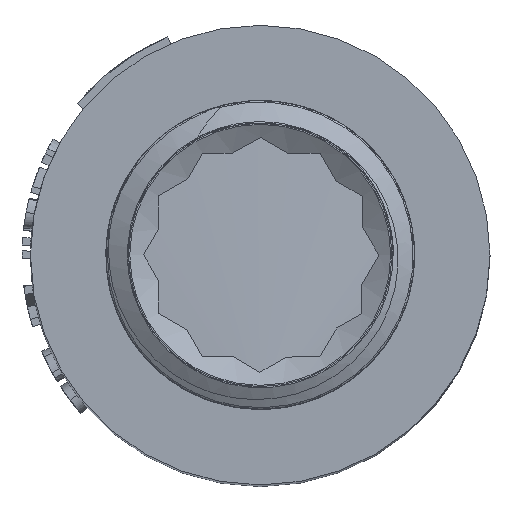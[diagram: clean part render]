
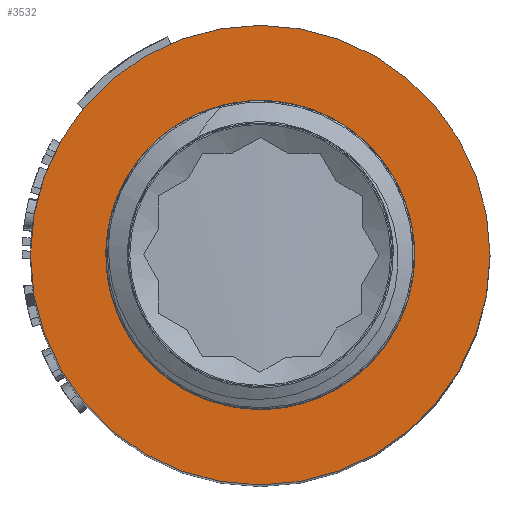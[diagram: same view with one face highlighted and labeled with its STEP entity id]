
A CAD part, top view. The second image highlights one B-rep face of the part: STEP entity #3532.
In plain terms, the highlighted planar face has unit normal (0, 0, 1).
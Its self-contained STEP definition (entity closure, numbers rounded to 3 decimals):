
#82=FACE_BOUND('',#815,.T.);
#446=PLANE('',#3759);
#600=FACE_OUTER_BOUND('',#814,.T.);
#814=EDGE_LOOP('',(#3007,#3008));
#815=EDGE_LOOP('',(#3009,#3010));
#1271=CIRCLE('',#3611,7.825);
#1274=CIRCLE('',#3614,7.825);
#1295=CIRCLE('',#3654,13.65);
#1296=CIRCLE('',#3655,13.65);
#1364=VERTEX_POINT('',#4470);
#1365=VERTEX_POINT('',#4471);
#1412=VERTEX_POINT('',#4718);
#1413=VERTEX_POINT('',#4719);
#1724=EDGE_CURVE('',#1364,#1365,#1271,.T.);
#1728=EDGE_CURVE('',#1365,#1364,#1274,.T.);
#1795=EDGE_CURVE('',#1412,#1413,#1295,.T.);
#1796=EDGE_CURVE('',#1413,#1412,#1296,.T.);
#3007=ORIENTED_EDGE('',*,*,#1795,.T.);
#3008=ORIENTED_EDGE('',*,*,#1796,.T.);
#3009=ORIENTED_EDGE('',*,*,#1724,.F.);
#3010=ORIENTED_EDGE('',*,*,#1728,.F.);
#3532=ADVANCED_FACE('',(#600,#82),#446,.T.);
#3611=AXIS2_PLACEMENT_3D('',#4472,#3834,#3835);
#3614=AXIS2_PLACEMENT_3D('',#4478,#3841,#3842);
#3654=AXIS2_PLACEMENT_3D('',#4720,#3957,#3958);
#3655=AXIS2_PLACEMENT_3D('',#4721,#3959,#3960);
#3759=AXIS2_PLACEMENT_3D('',#7209,#4295,#4296);
#3834=DIRECTION('center_axis',(0.,0.,1.));
#3835=DIRECTION('ref_axis',(1.,0.,0.));
#3841=DIRECTION('center_axis',(0.,0.,1.));
#3842=DIRECTION('ref_axis',(1.,0.,0.));
#3957=DIRECTION('center_axis',(0.,0.,1.));
#3958=DIRECTION('ref_axis',(1.,0.,0.));
#3959=DIRECTION('center_axis',(0.,0.,1.));
#3960=DIRECTION('ref_axis',(1.,0.,0.));
#4295=DIRECTION('center_axis',(0.,0.,1.));
#4296=DIRECTION('ref_axis',(1.,0.,0.));
#4470=CARTESIAN_POINT('',(0.,7.825,-10.));
#4471=CARTESIAN_POINT('',(0.,-7.825,-10.));
#4472=CARTESIAN_POINT('Origin',(0.,0.,-10.));
#4478=CARTESIAN_POINT('Origin',(0.,0.,-10.));
#4718=CARTESIAN_POINT('',(0.,-13.65,-10.));
#4719=CARTESIAN_POINT('',(0.,13.65,-10.));
#4720=CARTESIAN_POINT('Origin',(0.,0.,-10.));
#4721=CARTESIAN_POINT('Origin',(0.,0.,-10.));
#7209=CARTESIAN_POINT('Origin',(0.,-9.17,-10.));
